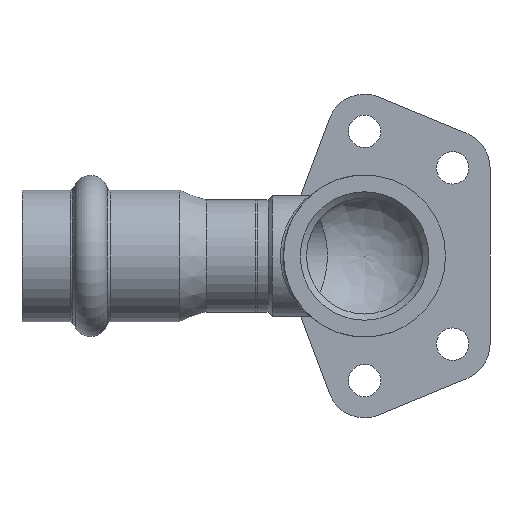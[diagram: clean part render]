
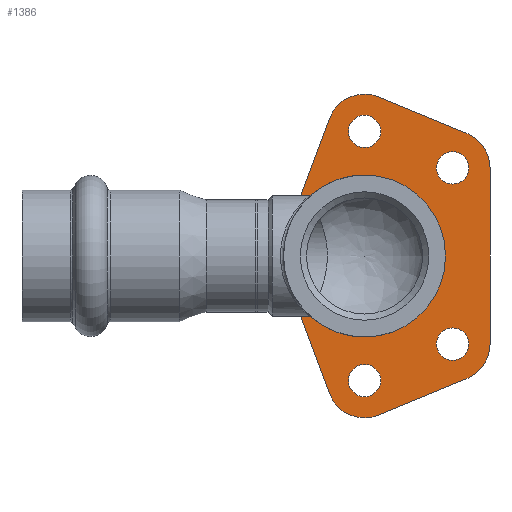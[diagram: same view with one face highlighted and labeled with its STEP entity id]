
A CAD part, front view. The second image highlights one B-rep face of the part: STEP entity #1386.
In plain terms, the highlighted planar face has unit normal (0, -1, 0).
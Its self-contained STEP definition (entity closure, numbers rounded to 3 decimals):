
#1224=CARTESIAN_POINT('',(0.,12.5,-11.124));
#1225=VERTEX_POINT('',#1224);
#1226=CARTESIAN_POINT('',(0.,12.5,0.));
#1227=DIRECTION('',(0.0,-1.0,0.0));
#1228=DIRECTION('',(0.0,0.0,1.0));
#1229=AXIS2_PLACEMENT_3D('',#1226,#1227,#1228);
#1230=CIRCLE('',#1229,11.124);
#1231=EDGE_CURVE('',#1225,#1225,#1230,.T.);
#1247=CARTESIAN_POINT('',(4.534,12.5,0.));
#1248=DIRECTION('',(0.0,1.0,0.0));
#1249=DIRECTION('',(0.0,0.0,1.0));
#1250=AXIS2_PLACEMENT_3D('',#1247,#1248,#1249);
#1251=PLANE('',#1250);
#1252=CARTESIAN_POINT('',(-5.62,12.5,22.1));
#1253=VERTEX_POINT('',#1252);
#1254=CARTESIAN_POINT('',(2.296,12.5,25.543));
#1255=VERTEX_POINT('',#1254);
#1256=CARTESIAN_POINT('',(0.0,12.5,20.0));
#1257=DIRECTION('',(0.0,1.0,0.0));
#1258=DIRECTION('',(0.937,0.0,-0.35));
#1259=AXIS2_PLACEMENT_3D('',#1256,#1257,#1258);
#1260=CIRCLE('',#1259,6.0);
#1261=EDGE_CURVE('',#1253,#1255,#1260,.T.);
#1262=ORIENTED_EDGE('',*,*,#1261,.F.);
#1263=CARTESIAN_POINT('',(-12.178,12.5,4.55));
#1264=VERTEX_POINT('',#1263);
#1265=CARTESIAN_POINT('',(-12.178,12.5,4.55));
#1266=DIRECTION('',(0.35,0.0,0.937));
#1267=VECTOR('',#1266,18.735);
#1268=LINE('',#1265,#1267);
#1269=EDGE_CURVE('',#1264,#1253,#1268,.T.);
#1270=ORIENTED_EDGE('',*,*,#1269,.F.);
#1271=CARTESIAN_POINT('',(-12.178,12.5,-4.55));
#1272=VERTEX_POINT('',#1271);
#1273=CARTESIAN_POINT('',(0.,12.5,0.0));
#1274=DIRECTION('',(0.0,1.,0.0));
#1275=DIRECTION('',(0.937,0.0,0.35));
#1276=AXIS2_PLACEMENT_3D('',#1273,#1274,#1275);
#1277=CIRCLE('',#1276,13.0);
#1278=EDGE_CURVE('',#1272,#1264,#1277,.T.);
#1279=ORIENTED_EDGE('',*,*,#1278,.F.);
#1280=CARTESIAN_POINT('',(-5.62,12.5,-22.1));
#1281=VERTEX_POINT('',#1280);
#1282=CARTESIAN_POINT('',(-5.62,12.5,-22.1));
#1283=DIRECTION('',(-0.35,0.0,0.937));
#1284=VECTOR('',#1283,18.735);
#1285=LINE('',#1282,#1284);
#1286=EDGE_CURVE('',#1281,#1272,#1285,.T.);
#1287=ORIENTED_EDGE('',*,*,#1286,.F.);
#1288=CARTESIAN_POINT('',(2.296,12.5,-25.543));
#1289=VERTEX_POINT('',#1288);
#1290=CARTESIAN_POINT('',(0.0,12.5,-20.0));
#1291=DIRECTION('',(0.0,1.,0.0));
#1292=DIRECTION('',(-0.383,0.0,0.924));
#1293=AXIS2_PLACEMENT_3D('',#1290,#1291,#1292);
#1294=CIRCLE('',#1293,6.);
#1295=EDGE_CURVE('',#1289,#1281,#1294,.T.);
#1296=ORIENTED_EDGE('',*,*,#1295,.F.);
#1297=CARTESIAN_POINT('',(16.438,12.5,-19.685));
#1298=VERTEX_POINT('',#1297);
#1299=CARTESIAN_POINT('',(16.438,12.5,-19.685));
#1300=DIRECTION('',(-0.924,0.0,-0.383));
#1301=VECTOR('',#1300,15.307);
#1302=LINE('',#1299,#1301);
#1303=EDGE_CURVE('',#1298,#1289,#1302,.T.);
#1304=ORIENTED_EDGE('',*,*,#1303,.F.);
#1305=CARTESIAN_POINT('',(20.142,12.5,-14.142));
#1306=VERTEX_POINT('',#1305);
#1307=CARTESIAN_POINT('',(14.142,12.5,-14.142));
#1308=DIRECTION('',(0.0,1.0,0.0));
#1309=DIRECTION('',(-1.0,0.0,0.0));
#1310=AXIS2_PLACEMENT_3D('',#1307,#1308,#1309);
#1311=CIRCLE('',#1310,6.);
#1312=EDGE_CURVE('',#1306,#1298,#1311,.T.);
#1313=ORIENTED_EDGE('',*,*,#1312,.F.);
#1314=CARTESIAN_POINT('',(20.142,12.5,14.142));
#1315=VERTEX_POINT('',#1314);
#1316=CARTESIAN_POINT('',(20.142,12.5,14.142));
#1317=DIRECTION('',(0.0,0.0,-1.0));
#1318=VECTOR('',#1317,28.284);
#1319=LINE('',#1316,#1318);
#1320=EDGE_CURVE('',#1315,#1306,#1319,.T.);
#1321=ORIENTED_EDGE('',*,*,#1320,.F.);
#1322=CARTESIAN_POINT('',(16.438,12.5,19.685));
#1323=VERTEX_POINT('',#1322);
#1324=CARTESIAN_POINT('',(14.142,12.5,14.142));
#1325=DIRECTION('',(0.0,1.,0.0));
#1326=DIRECTION('',(-0.383,0.0,-0.924));
#1327=AXIS2_PLACEMENT_3D('',#1324,#1325,#1326);
#1328=CIRCLE('',#1327,6.);
#1329=EDGE_CURVE('',#1323,#1315,#1328,.T.);
#1330=ORIENTED_EDGE('',*,*,#1329,.F.);
#1331=CARTESIAN_POINT('',(2.296,12.5,25.543));
#1332=DIRECTION('',(0.924,0.0,-0.383));
#1333=VECTOR('',#1332,15.307);
#1334=LINE('',#1331,#1333);
#1335=EDGE_CURVE('',#1255,#1323,#1334,.T.);
#1336=ORIENTED_EDGE('',*,*,#1335,.F.);
#1337=EDGE_LOOP('',(#1262,#1270,#1279,#1287,#1296,#1304,#1313,#1321,#1330,#1336));
#1338=FACE_OUTER_BOUND('',#1337,.T.);
#1339=CARTESIAN_POINT('',(2.6,12.5,-20.0));
#1340=VERTEX_POINT('',#1339);
#1341=CARTESIAN_POINT('',(0.0,12.5,-20.0));
#1342=DIRECTION('',(0.0,1.0,0.0));
#1343=DIRECTION('',(-1.0,0.0,0.0));
#1344=AXIS2_PLACEMENT_3D('',#1341,#1342,#1343);
#1345=CIRCLE('',#1344,2.6);
#1346=EDGE_CURVE('',#1340,#1340,#1345,.T.);
#1347=ORIENTED_EDGE('',*,*,#1346,.T.);
#1348=EDGE_LOOP('',(#1347));
#1349=FACE_BOUND('',#1348,.T.);
#1350=CARTESIAN_POINT('',(16.742,12.5,14.142));
#1351=VERTEX_POINT('',#1350);
#1352=CARTESIAN_POINT('',(14.142,12.5,14.142));
#1353=DIRECTION('',(0.0,1.0,0.0));
#1354=DIRECTION('',(-1.0,0.0,0.0));
#1355=AXIS2_PLACEMENT_3D('',#1352,#1353,#1354);
#1356=CIRCLE('',#1355,2.6);
#1357=EDGE_CURVE('',#1351,#1351,#1356,.T.);
#1358=ORIENTED_EDGE('',*,*,#1357,.T.);
#1359=EDGE_LOOP('',(#1358));
#1360=FACE_BOUND('',#1359,.T.);
#1361=CARTESIAN_POINT('',(2.6,12.5,20.0));
#1362=VERTEX_POINT('',#1361);
#1363=CARTESIAN_POINT('',(0.0,12.5,20.0));
#1364=DIRECTION('',(0.0,1.0,0.0));
#1365=DIRECTION('',(-1.0,0.0,0.0));
#1366=AXIS2_PLACEMENT_3D('',#1363,#1364,#1365);
#1367=CIRCLE('',#1366,2.6);
#1368=EDGE_CURVE('',#1362,#1362,#1367,.T.);
#1369=ORIENTED_EDGE('',*,*,#1368,.T.);
#1370=EDGE_LOOP('',(#1369));
#1371=FACE_BOUND('',#1370,.T.);
#1372=CARTESIAN_POINT('',(16.742,12.5,-14.142));
#1373=VERTEX_POINT('',#1372);
#1374=CARTESIAN_POINT('',(14.142,12.5,-14.142));
#1375=DIRECTION('',(0.0,1.0,0.0));
#1376=DIRECTION('',(-1.0,0.0,0.0));
#1377=AXIS2_PLACEMENT_3D('',#1374,#1375,#1376);
#1378=CIRCLE('',#1377,2.6);
#1379=EDGE_CURVE('',#1373,#1373,#1378,.T.);
#1380=ORIENTED_EDGE('',*,*,#1379,.T.);
#1381=EDGE_LOOP('',(#1380));
#1382=FACE_BOUND('',#1381,.T.);
#1383=ORIENTED_EDGE('',*,*,#1231,.F.);
#1384=EDGE_LOOP('',(#1383));
#1385=FACE_BOUND('',#1384,.T.);
#1386=ADVANCED_FACE('',(#1338,#1349,#1360,#1371,#1382,#1385),#1251,.F.);
